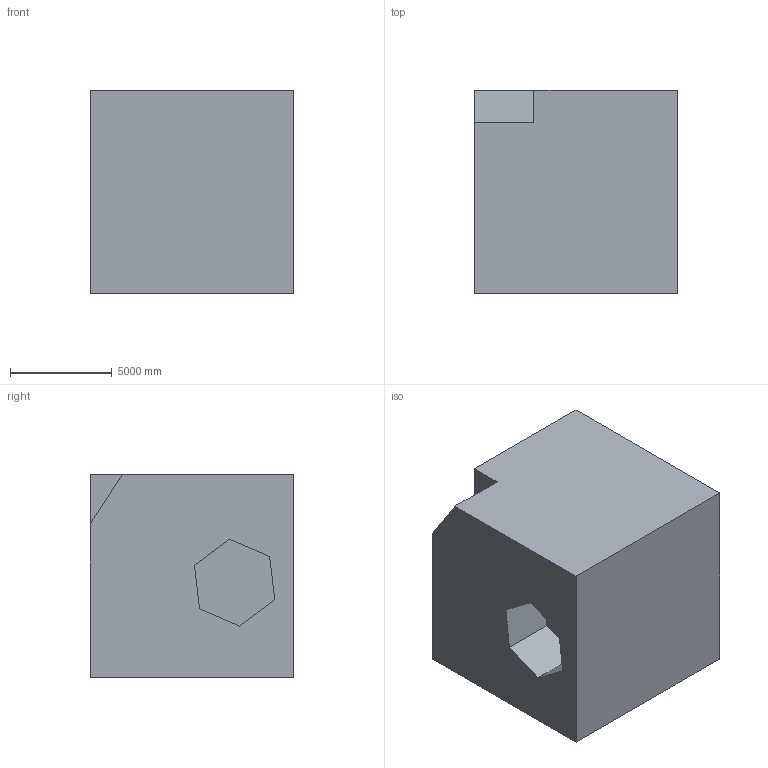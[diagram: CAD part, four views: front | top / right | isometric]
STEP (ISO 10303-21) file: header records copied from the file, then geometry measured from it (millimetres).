
FILE_DESCRIPTION (( 'STEP AP203' ), '1' );
FILE_NAME ('220.STEP', '2022-09-07T12:20:15', ( 'user' ), ( '' ), 'SwSTEP 2.0', 'SolidWorks 2021', '' );
FILE_SCHEMA (( 'CONFIG_CONTROL_DESIGN' ));
Length unit declared in the file: centimetre
Products named in the file (1): 220
Bounding box: 10000 x 10000 x 10000 mm (x, y, z)
Volume: 963061005114.9 mm3; surface area: 630352467.5 mm2
Topology: 1 solids, 1 shells, 15 faces, 36 edges, 24 vertices
Faces by surface type: plane 15
Entity records: 507 total; most frequent: CARTESIAN_POINT 76, ORIENTED_EDGE 72, DIRECTION 68, VECTOR 36, EDGE_CURVE 36, LINE 36, VERTEX_POINT 24, EDGE_LOOP 16
